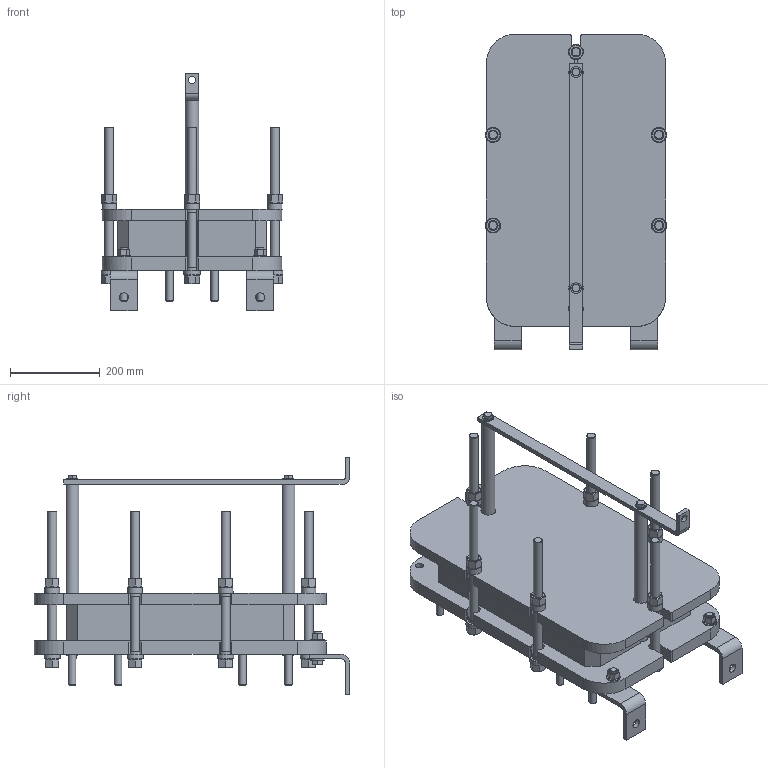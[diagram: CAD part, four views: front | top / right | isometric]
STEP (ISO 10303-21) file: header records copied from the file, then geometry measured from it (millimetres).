
FILE_DESCRIPTION((''),'2;1');
FILE_NAME('C:\temp\TS6_FG_LC350_5_01_Rev0.stp','2009-09-27T12:39:22',('CNSHFLU'),(''),'Autodesk Inventor 2008','Autodesk Inventor 2008','');
FILE_SCHEMA(('AUTOMOTIVE_DESIGN { 1 2 10303 214 0 1 1 1 }'));
Length unit declared in the file: millimetre
Products named in the file (1): TS6
Bounding box: 406 x 704 x 530 mm (x, y, z)
Volume: 27784439.2 mm3; surface area: 1458784.1 mm2
Topology: 1 solids, 7 shells, 1183 faces, 2861 edges, 1799 vertices
Faces by surface type: plane 607, cylinder 284, cone 272, bspline 20
Full cylindrical faces by diameter (mm): 3.75 x4, 12 x4, 13 x4, 13.5 x2, 16 x20, 17 x7, 18 x4, 20 x14, 21 x12, 23.166 x2, 24 x4, 26 x12, 30 x6, 33 x6, 36 x6, 65 x4, 70 x4
Entity records: 33260 total; most frequent: CARTESIAN_POINT 6795, DIRECTION 5489, ORIENTED_EDGE 5374, EDGE_CURVE 2687, AXIS2_PLACEMENT_3D 2094, VERTEX_POINT 1784, EDGE_LOOP 1485, VECTOR 1301
